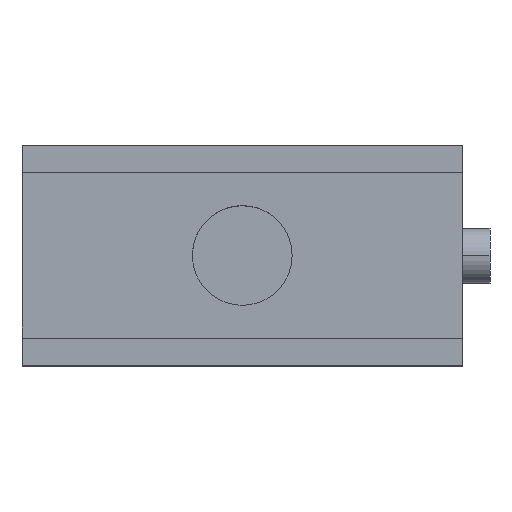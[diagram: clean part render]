
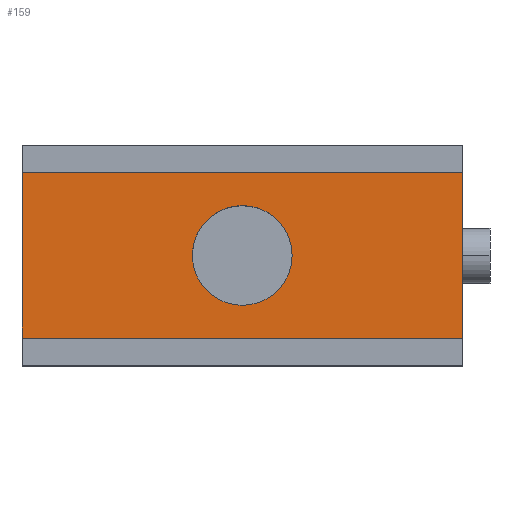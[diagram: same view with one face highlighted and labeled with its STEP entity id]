
A CAD part, top view. The second image highlights one B-rep face of the part: STEP entity #159.
In plain terms, the highlighted planar face has unit normal (0, 0, 1).
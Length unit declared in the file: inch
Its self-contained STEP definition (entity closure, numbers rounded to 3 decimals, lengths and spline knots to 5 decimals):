
#98 = EDGE_CURVE ( 'NONE', #232, #230, #504, .T. ) ;
#134 = EDGE_CURVE ( 'NONE', #157, #137, #587, .T. ) ;
#136 = EDGE_LOOP ( 'NONE', ( #175, #179, #180, #182 ) ) ;
#137 = VERTEX_POINT ( 'NONE', #547 ) ;
#148 = EDGE_CURVE ( 'NONE', #184, #225, #583, .T. ) ;
#149 = EDGE_CURVE ( 'NONE', #225, #137, #530, .T. ) ;
#157 = VERTEX_POINT ( 'NONE', #555 ) ;
#159 = ADVANCED_FACE ( 'NONE', ( #543, #542 ), #541, .F. ) ;
#175 = ORIENTED_EDGE ( 'NONE', *, *, #149, .T. ) ;
#176 = EDGE_LOOP ( 'NONE', ( #222, #226 ) ) ;
#179 = ORIENTED_EDGE ( 'NONE', *, *, #134, .F. ) ;
#180 = ORIENTED_EDGE ( 'NONE', *, *, #216, .F. ) ;
#181 = EDGE_CURVE ( 'NONE', #230, #232, #611, .T. ) ;
#182 = ORIENTED_EDGE ( 'NONE', *, *, #148, .T. ) ;
#184 = VERTEX_POINT ( 'NONE', #569 ) ;
#216 = EDGE_CURVE ( 'NONE', #184, #157, #786, .T. ) ;
#222 = ORIENTED_EDGE ( 'NONE', *, *, #181, .F. ) ;
#225 = VERTEX_POINT ( 'NONE', #840 ) ;
#226 = ORIENTED_EDGE ( 'NONE', *, *, #98, .F. ) ;
#230 = VERTEX_POINT ( 'NONE', #712 ) ;
#232 = VERTEX_POINT ( 'NONE', #707 ) ;
#458 = AXIS2_PLACEMENT_3D ( 'NONE', #515, #514, #482 ) ;
#482 = DIRECTION ( 'NONE',  ( 1., 0., 0. ) ) ;
#500 = DIRECTION ( 'NONE',  ( 0., -1., 0. ) ) ;
#501 = VECTOR ( 'NONE', #500, 39.37008 ) ;
#502 = CARTESIAN_POINT ( 'NONE',  ( 2., 0.75, 3. ) ) ;
#504 = CIRCLE ( 'NONE', #458, 0.22655 ) ;
#511 = DIRECTION ( 'NONE',  ( 0., -1., 0. ) ) ;
#514 = DIRECTION ( 'NONE',  ( 0., 0., 1. ) ) ;
#515 = CARTESIAN_POINT ( 'NONE',  ( 1., 0.375, 3. ) ) ;
#522 = DIRECTION ( 'NONE',  ( -1., 0., 0. ) ) ;
#523 = DIRECTION ( 'NONE',  ( 0., 0., -1. ) ) ;
#524 = CARTESIAN_POINT ( 'NONE',  ( -1.81003, 0.75, 3. ) ) ;
#525 = AXIS2_PLACEMENT_3D ( 'NONE', #524, #523, #522 ) ;
#527 = DIRECTION ( 'NONE',  ( 1., 0., 0. ) ) ;
#528 = VECTOR ( 'NONE', #527, 39.37008 ) ;
#529 = CARTESIAN_POINT ( 'NONE',  ( -1.81003, 0., 3. ) ) ;
#530 = LINE ( 'NONE', #529, #528 ) ;
#541 = PLANE ( 'NONE',  #525 ) ;
#542 = FACE_BOUND ( 'NONE', #176, .T. ) ;
#543 = FACE_OUTER_BOUND ( 'NONE', #136, .T. ) ;
#547 = CARTESIAN_POINT ( 'NONE',  ( 2., 0., 3. ) ) ;
#555 = CARTESIAN_POINT ( 'NONE',  ( 2., 0.75, 3. ) ) ;
#569 = CARTESIAN_POINT ( 'NONE',  ( 0., 0.75, 3. ) ) ;
#571 = DIRECTION ( 'NONE',  ( 1., 0., 0. ) ) ;
#581 = VECTOR ( 'NONE', #511, 39.37008 ) ;
#582 = CARTESIAN_POINT ( 'NONE',  ( 0., 0.75, 3. ) ) ;
#583 = LINE ( 'NONE', #582, #581 ) ;
#587 = LINE ( 'NONE', #502, #501 ) ;
#605 = DIRECTION ( 'NONE',  ( 0., 0., 1. ) ) ;
#606 = CARTESIAN_POINT ( 'NONE',  ( 1., 0.375, 3. ) ) ;
#607 = AXIS2_PLACEMENT_3D ( 'NONE', #606, #605, #571 ) ;
#611 = CIRCLE ( 'NONE', #607, 0.22655 ) ;
#707 = CARTESIAN_POINT ( 'NONE',  ( 0.77345, 0.375, 3. ) ) ;
#712 = CARTESIAN_POINT ( 'NONE',  ( 1.22655, 0.375, 3. ) ) ;
#780 = DIRECTION ( 'NONE',  ( 1., 0., 0. ) ) ;
#781 = VECTOR ( 'NONE', #780, 39.37008 ) ;
#782 = CARTESIAN_POINT ( 'NONE',  ( -1.81003, 0.75, 3. ) ) ;
#786 = LINE ( 'NONE', #782, #781 ) ;
#840 = CARTESIAN_POINT ( 'NONE',  ( 0., 0., 3. ) ) ;
